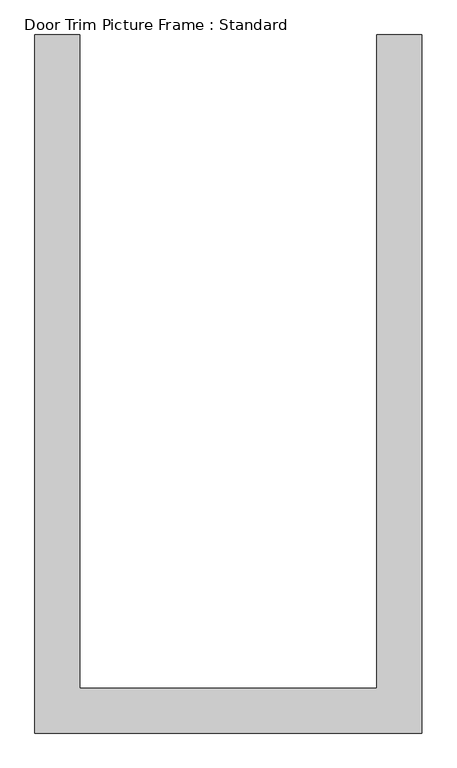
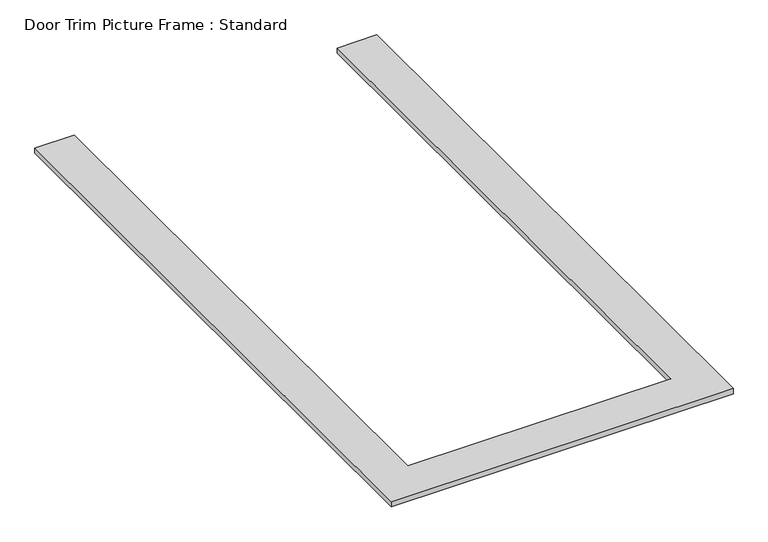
"""IFC4 building model written with IfcOpenShell, lengths in millimetres: proxy geometry, Door Trim Picture Frame : Standard."""

from ifc_helpers import new_model, si_unit, origin, origin_with_axes, place, context, project, spatial, polyline, outline, extrude, source, transform, mapped, element, save


def door_trim_picture_frame_standard_eb8f9a70(model_context):
    return source(origin(), model_context, "Body", "SweptSolid", [
        extrude(outline(polyline([(-463.55, 2057.4), (-463.55, 19.05), (463.55, 19.05), (463.55, 2057.4), (603.25, 2057.4), (603.25, -120.65), (-603.25, -120.65), (-603.25, 2057.4), (-463.55, 2057.4)])), origin_with_axes(), (0.0, 0.0, 1.0), 19.05),
    ])


if __name__ == "__main__":
    model = new_model("IFC4")
    model_context = context("Model", 3, world=origin())
    ifc_project = project(units=[si_unit("LENGTHUNIT", "METRE", prefix="MILLI")], contexts=[model_context])
    site = spatial("IfcSite", under=ifc_project)
    building = spatial("IfcBuilding", under=site)
    placement = place(None, origin())
    door_trim_picture_frame_standard_shape = door_trim_picture_frame_standard_eb8f9a70(model_context)
    element("IfcBuildingElementProxy", 1, Name="Door Trim Picture Frame : Standard", ObjectType="Door Trim Picture Frame : Standard", at=placement, inside=building, context=model_context, shape_type="MappedRepresentation", body=[
        mapped(door_trim_picture_frame_standard_shape, transform((0.0, 0.0, 0.0), x_axis=(1.0, 0.0, 0.0), y_axis=(0.0, 1.0, 0.0), z_axis=(0.0, 0.0, 1.0))),
    ])
    save(model, "model.ifc")
